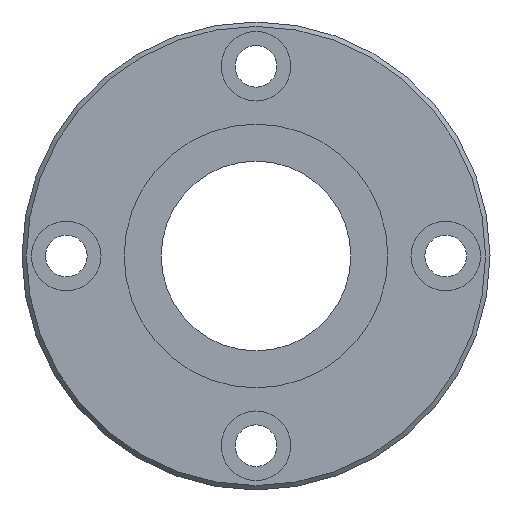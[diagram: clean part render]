
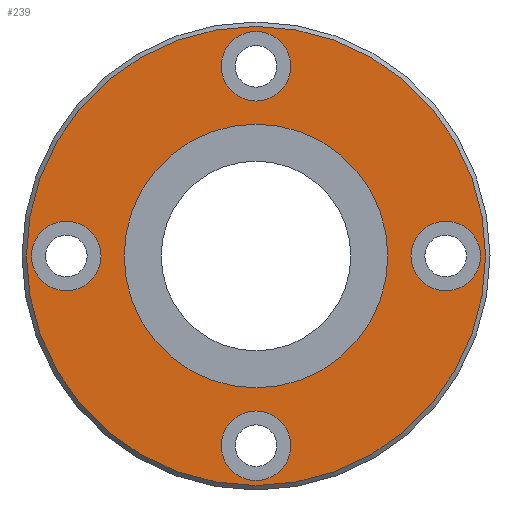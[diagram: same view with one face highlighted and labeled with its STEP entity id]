
A CAD part, left-side view. The second image highlights one B-rep face of the part: STEP entity #239.
In plain terms, the highlighted planar face has unit normal (-1, 0, 0).
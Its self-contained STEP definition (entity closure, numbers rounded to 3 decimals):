
#164=CARTESIAN_POINT('',(0.0,0.,36.3));
#165=VERTEX_POINT('',#164);
#166=CARTESIAN_POINT('',(0.0,0.0,0.0));
#167=DIRECTION('',(1.0,0.0,0.0));
#168=DIRECTION('',(0.0,0.0,-1.0));
#169=AXIS2_PLACEMENT_3D('',#166,#167,#168);
#170=CIRCLE('',#169,36.3);
#171=EDGE_CURVE('',#165,#165,#170,.T.);
#176=CARTESIAN_POINT('',(0.0,0.0,21.675));
#177=DIRECTION('',(-1.0,0.0,0.0));
#178=DIRECTION('',(0.0,0.0,1.0));
#179=AXIS2_PLACEMENT_3D('',#176,#177,#178);
#180=PLANE('',#179);
#181=ORIENTED_EDGE('',*,*,#171,.F.);
#182=EDGE_LOOP('',(#181));
#183=FACE_OUTER_BOUND('',#182,.T.);
#184=CARTESIAN_POINT('',(0.0,0.0,20.85));
#185=VERTEX_POINT('',#184);
#186=CARTESIAN_POINT('',(0.0,0.0,0.0));
#187=DIRECTION('',(-1.0,0.0,0.0));
#188=DIRECTION('',(0.0,0.0,1.0));
#189=AXIS2_PLACEMENT_3D('',#186,#187,#188);
#190=CIRCLE('',#189,20.85);
#191=EDGE_CURVE('',#185,#185,#190,.T.);
#192=ORIENTED_EDGE('',*,*,#191,.F.);
#193=EDGE_LOOP('',(#192));
#194=FACE_BOUND('',#193,.T.);
#195=CARTESIAN_POINT('',(0.0,35.5,0.));
#196=VERTEX_POINT('',#195);
#197=CARTESIAN_POINT('',(0.0,30.0,0.));
#198=DIRECTION('',(1.0,0.0,0.0));
#199=DIRECTION('',(0.0,1.0,0.0));
#200=AXIS2_PLACEMENT_3D('',#197,#198,#199);
#201=CIRCLE('',#200,5.5);
#202=EDGE_CURVE('',#196,#196,#201,.T.);
#203=ORIENTED_EDGE('',*,*,#202,.T.);
#204=EDGE_LOOP('',(#203));
#205=FACE_BOUND('',#204,.T.);
#206=CARTESIAN_POINT('',(0.0,-24.5,0.));
#207=VERTEX_POINT('',#206);
#208=CARTESIAN_POINT('',(0.0,-30.0,0.));
#209=DIRECTION('',(1.0,0.0,0.0));
#210=DIRECTION('',(0.0,1.0,0.0));
#211=AXIS2_PLACEMENT_3D('',#208,#209,#210);
#212=CIRCLE('',#211,5.5);
#213=EDGE_CURVE('',#207,#207,#212,.T.);
#214=ORIENTED_EDGE('',*,*,#213,.T.);
#215=EDGE_LOOP('',(#214));
#216=FACE_BOUND('',#215,.T.);
#217=CARTESIAN_POINT('',(0.0,5.5,30.0));
#218=VERTEX_POINT('',#217);
#219=CARTESIAN_POINT('',(0.0,0.,30.0));
#220=DIRECTION('',(1.0,0.0,0.0));
#221=DIRECTION('',(0.0,1.0,0.0));
#222=AXIS2_PLACEMENT_3D('',#219,#220,#221);
#223=CIRCLE('',#222,5.5);
#224=EDGE_CURVE('',#218,#218,#223,.T.);
#225=ORIENTED_EDGE('',*,*,#224,.T.);
#226=EDGE_LOOP('',(#225));
#227=FACE_BOUND('',#226,.T.);
#228=CARTESIAN_POINT('',(0.0,5.5,-30.0));
#229=VERTEX_POINT('',#228);
#230=CARTESIAN_POINT('',(0.0,0.,-30.0));
#231=DIRECTION('',(1.0,0.0,0.0));
#232=DIRECTION('',(0.0,1.0,0.0));
#233=AXIS2_PLACEMENT_3D('',#230,#231,#232);
#234=CIRCLE('',#233,5.5);
#235=EDGE_CURVE('',#229,#229,#234,.T.);
#236=ORIENTED_EDGE('',*,*,#235,.T.);
#237=EDGE_LOOP('',(#236));
#238=FACE_BOUND('',#237,.T.);
#239=ADVANCED_FACE('',(#183,#194,#205,#216,#227,#238),#180,.T.);
